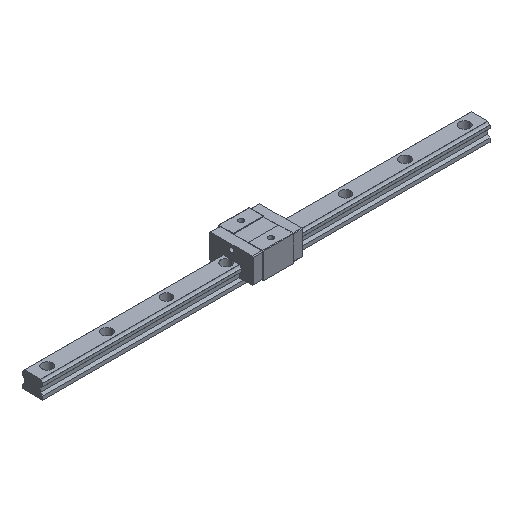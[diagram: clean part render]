
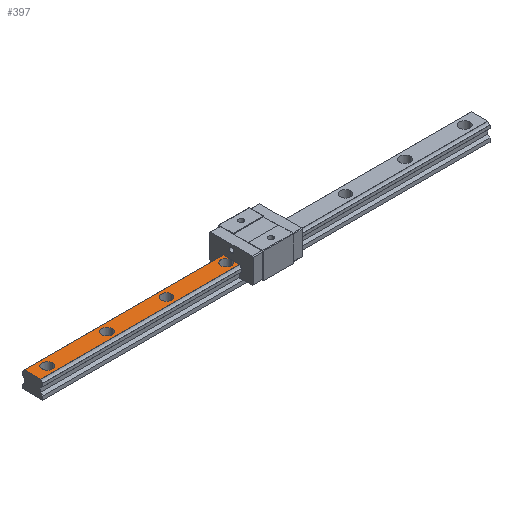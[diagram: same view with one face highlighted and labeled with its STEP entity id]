
A CAD part, isometric view. The second image highlights one B-rep face of the part: STEP entity #397.
In plain terms, the highlighted planar face has unit normal (0, 0, 1).
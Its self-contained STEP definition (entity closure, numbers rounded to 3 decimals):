
#67 = DIRECTION ( 'NONE',  ( 0., 0., -1. ) ) ;
#78 = VECTOR ( 'NONE', #3069, 1000. ) ;
#108 = CARTESIAN_POINT ( 'NONE',  ( -287., 0., 23. ) ) ;
#112 = EDGE_CURVE ( 'NONE', #2527, #1232, #4221, .T. ) ;
#138 = AXIS2_PLACEMENT_3D ( 'NONE', #278, #3068, #4995 ) ;
#186 = DIRECTION ( 'NONE',  ( 0., 0., -1. ) ) ;
#215 = EDGE_CURVE ( 'NONE', #1157, #546, #1464, .T. ) ;
#249 = VERTEX_POINT ( 'NONE', #1036 ) ;
#278 = CARTESIAN_POINT ( 'NONE',  ( -200., 0., 23. ) ) ;
#397 = ADVANCED_FACE ( 'NONE', ( #3374, #1963, #4955, #1551, #3135 ), #4897, .F. ) ;
#399 = LINE ( 'NONE', #3869, #875 ) ;
#479 = CARTESIAN_POINT ( 'NONE',  ( -120., 0., 23. ) ) ;
#546 = VERTEX_POINT ( 'NONE', #3852 ) ;
#602 = AXIS2_PLACEMENT_3D ( 'NONE', #4803, #67, #4020 ) ;
#627 = DIRECTION ( 'NONE',  ( 0., 0., -1. ) ) ;
#647 = ORIENTED_EDGE ( 'NONE', *, *, #2862, .T. ) ;
#648 = CARTESIAN_POINT ( 'NONE',  ( -280., 0., 23. ) ) ;
#673 = CARTESIAN_POINT ( 'NONE',  ( 300., 11.035, 23. ) ) ;
#708 = VERTEX_POINT ( 'NONE', #2530 ) ;
#743 = EDGE_CURVE ( 'NONE', #1563, #2193, #4946, .T. ) ;
#808 = AXIS2_PLACEMENT_3D ( 'NONE', #4698, #4532, #3008 ) ;
#875 = VECTOR ( 'NONE', #1987, 1000. ) ;
#947 = AXIS2_PLACEMENT_3D ( 'NONE', #3322, #4112, #3786 ) ;
#967 = CARTESIAN_POINT ( 'NONE',  ( -280., 0., 23. ) ) ;
#1036 = CARTESIAN_POINT ( 'NONE',  ( -47., 0., 23. ) ) ;
#1054 = CARTESIAN_POINT ( 'NONE',  ( 300., -11.035, 23. ) ) ;
#1157 = VERTEX_POINT ( 'NONE', #1787 ) ;
#1227 = ORIENTED_EDGE ( 'NONE', *, *, #1290, .T. ) ;
#1232 = VERTEX_POINT ( 'NONE', #4617 ) ;
#1254 = EDGE_LOOP ( 'NONE', ( #4914, #647 ) ) ;
#1290 = EDGE_CURVE ( 'NONE', #3353, #249, #3599, .T. ) ;
#1460 = VECTOR ( 'NONE', #3435, 1000. ) ;
#1464 = LINE ( 'NONE', #673, #4194 ) ;
#1505 = VERTEX_POINT ( 'NONE', #108 ) ;
#1551 = FACE_BOUND ( 'NONE', #4635, .T. ) ;
#1563 = VERTEX_POINT ( 'NONE', #4884 ) ;
#1576 = CARTESIAN_POINT ( 'NONE',  ( -120., 0., 23. ) ) ;
#1621 = ORIENTED_EDGE ( 'NONE', *, *, #112, .T. ) ;
#1702 = ORIENTED_EDGE ( 'NONE', *, *, #215, .T. ) ;
#1787 = CARTESIAN_POINT ( 'NONE',  ( -32.9, 11.035, 23. ) ) ;
#1820 = DIRECTION ( 'NONE',  ( 0., 0., -1. ) ) ;
#1852 = AXIS2_PLACEMENT_3D ( 'NONE', #479, #186, #4895 ) ;
#1858 = AXIS2_PLACEMENT_3D ( 'NONE', #967, #1820, #4085 ) ;
#1897 = CARTESIAN_POINT ( 'NONE',  ( -300., 0., 23. ) ) ;
#1963 = FACE_BOUND ( 'NONE', #1254, .T. ) ;
#1987 = DIRECTION ( 'NONE',  ( 0., -1., 0. ) ) ;
#2118 = CIRCLE ( 'NONE', #138, 7. ) ;
#2193 = VERTEX_POINT ( 'NONE', #3585 ) ;
#2228 = CARTESIAN_POINT ( 'NONE',  ( -300., -11.035, 23. ) ) ;
#2243 = DIRECTION ( 'NONE',  ( -1., 0., 0. ) ) ;
#2262 = CARTESIAN_POINT ( 'NONE',  ( -207., 0., 23. ) ) ;
#2376 = ORIENTED_EDGE ( 'NONE', *, *, #4663, .T. ) ;
#2403 = VERTEX_POINT ( 'NONE', #2988 ) ;
#2527 = VERTEX_POINT ( 'NONE', #2228 ) ;
#2530 = CARTESIAN_POINT ( 'NONE',  ( -193., 0., 23. ) ) ;
#2793 = EDGE_CURVE ( 'NONE', #1157, #1232, #399, .T. ) ;
#2862 = EDGE_CURVE ( 'NONE', #5027, #708, #4981, .T. ) ;
#2895 = EDGE_CURVE ( 'NONE', #2403, #1505, #3832, .T. ) ;
#2964 = DIRECTION ( 'NONE',  ( 0., 0., -1. ) ) ;
#2988 = CARTESIAN_POINT ( 'NONE',  ( -273., 0., 23. ) ) ;
#2996 = EDGE_CURVE ( 'NONE', #708, #5027, #2118, .T. ) ;
#3008 = DIRECTION ( 'NONE',  ( 0., -1., 0. ) ) ;
#3064 = ORIENTED_EDGE ( 'NONE', *, *, #4045, .T. ) ;
#3068 = DIRECTION ( 'NONE',  ( 0., 0., -1. ) ) ;
#3069 = DIRECTION ( 'NONE',  ( 1., 0., 0. ) ) ;
#3108 = EDGE_LOOP ( 'NONE', ( #1621, #4800, #1702, #5005 ) ) ;
#3129 = DIRECTION ( 'NONE',  ( -1., 0., 0. ) ) ;
#3135 = FACE_OUTER_BOUND ( 'NONE', #3108, .T. ) ;
#3269 = AXIS2_PLACEMENT_3D ( 'NONE', #3850, #3469, #4593 ) ;
#3322 = CARTESIAN_POINT ( 'NONE',  ( -200., 0., 23. ) ) ;
#3336 = EDGE_CURVE ( 'NONE', #546, #2527, #3854, .T. ) ;
#3353 = VERTEX_POINT ( 'NONE', #4987 ) ;
#3374 = FACE_BOUND ( 'NONE', #4885, .T. ) ;
#3383 = ORIENTED_EDGE ( 'NONE', *, *, #743, .T. ) ;
#3435 = DIRECTION ( 'NONE',  ( 0., -1., 0. ) ) ;
#3469 = DIRECTION ( 'NONE',  ( 0., 0., -1. ) ) ;
#3585 = CARTESIAN_POINT ( 'NONE',  ( -127., 0., 23. ) ) ;
#3599 = CIRCLE ( 'NONE', #3269, 7. ) ;
#3786 = DIRECTION ( 'NONE',  ( -1., 0., 0. ) ) ;
#3802 = EDGE_CURVE ( 'NONE', #2193, #1563, #4294, .T. ) ;
#3832 = CIRCLE ( 'NONE', #4244, 7. ) ;
#3850 = CARTESIAN_POINT ( 'NONE',  ( -40., 0., 23. ) ) ;
#3852 = CARTESIAN_POINT ( 'NONE',  ( -300., 11.035, 23. ) ) ;
#3854 = LINE ( 'NONE', #1897, #1460 ) ;
#3869 = CARTESIAN_POINT ( 'NONE',  ( -32.9, -11.035, 23. ) ) ;
#3883 = AXIS2_PLACEMENT_3D ( 'NONE', #1576, #627, #3129 ) ;
#3889 = EDGE_LOOP ( 'NONE', ( #3383, #5085 ) ) ;
#4020 = DIRECTION ( 'NONE',  ( -1., 0., 0. ) ) ;
#4045 = EDGE_CURVE ( 'NONE', #1505, #2403, #4799, .T. ) ;
#4085 = DIRECTION ( 'NONE',  ( -1., 0., 0. ) ) ;
#4112 = DIRECTION ( 'NONE',  ( 0., 0., -1. ) ) ;
#4194 = VECTOR ( 'NONE', #2243, 1000. ) ;
#4221 = LINE ( 'NONE', #1054, #78 ) ;
#4244 = AXIS2_PLACEMENT_3D ( 'NONE', #648, #2964, #4938 ) ;
#4294 = CIRCLE ( 'NONE', #3883, 7. ) ;
#4532 = DIRECTION ( 'NONE',  ( 0., 0., -1. ) ) ;
#4593 = DIRECTION ( 'NONE',  ( -1., 0., 0. ) ) ;
#4617 = CARTESIAN_POINT ( 'NONE',  ( -32.9, -11.035, 23. ) ) ;
#4635 = EDGE_LOOP ( 'NONE', ( #1227, #2376 ) ) ;
#4663 = EDGE_CURVE ( 'NONE', #249, #3353, #5051, .T. ) ;
#4698 = CARTESIAN_POINT ( 'NONE',  ( 300., 0., 23. ) ) ;
#4799 = CIRCLE ( 'NONE', #1858, 7. ) ;
#4800 = ORIENTED_EDGE ( 'NONE', *, *, #2793, .F. ) ;
#4803 = CARTESIAN_POINT ( 'NONE',  ( -40., 0., 23. ) ) ;
#4884 = CARTESIAN_POINT ( 'NONE',  ( -113., 0., 23. ) ) ;
#4885 = EDGE_LOOP ( 'NONE', ( #4920, #3064 ) ) ;
#4895 = DIRECTION ( 'NONE',  ( -1., 0., 0. ) ) ;
#4897 = PLANE ( 'NONE',  #808 ) ;
#4914 = ORIENTED_EDGE ( 'NONE', *, *, #2996, .T. ) ;
#4920 = ORIENTED_EDGE ( 'NONE', *, *, #2895, .T. ) ;
#4938 = DIRECTION ( 'NONE',  ( -1., 0., 0. ) ) ;
#4946 = CIRCLE ( 'NONE', #1852, 7. ) ;
#4955 = FACE_BOUND ( 'NONE', #3889, .T. ) ;
#4981 = CIRCLE ( 'NONE', #947, 7. ) ;
#4987 = CARTESIAN_POINT ( 'NONE',  ( -33., 0., 23. ) ) ;
#4995 = DIRECTION ( 'NONE',  ( -1., 0., 0. ) ) ;
#5005 = ORIENTED_EDGE ( 'NONE', *, *, #3336, .T. ) ;
#5027 = VERTEX_POINT ( 'NONE', #2262 ) ;
#5051 = CIRCLE ( 'NONE', #602, 7. ) ;
#5085 = ORIENTED_EDGE ( 'NONE', *, *, #3802, .T. ) ;
